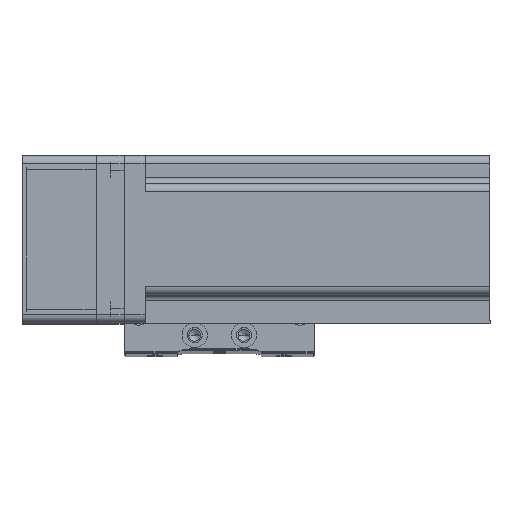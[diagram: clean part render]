
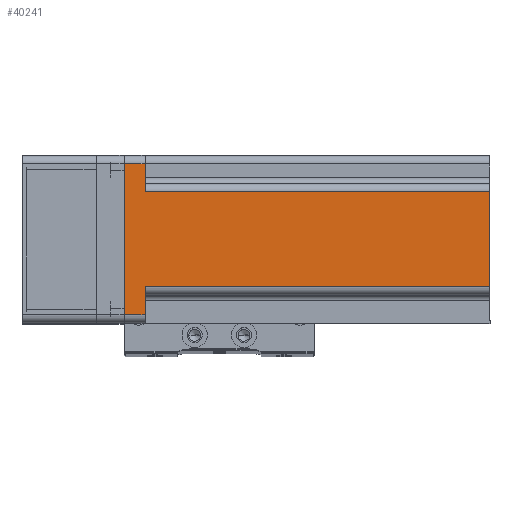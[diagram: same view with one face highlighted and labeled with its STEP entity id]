
A CAD part, top view. The second image highlights one B-rep face of the part: STEP entity #40241.
In plain terms, the highlighted planar face has unit normal (0, 0, 1) as drawn and (0, 1, 0) by its records, which use the part's own axes.
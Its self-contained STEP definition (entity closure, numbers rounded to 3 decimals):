
#1331 = CARTESIAN_POINT ( 'NONE',  ( 17., 30., 7.5 ) ) ;
#1866 = DIRECTION ( 'NONE',  ( -1., 0., 0. ) ) ;
#2267 = VECTOR ( 'NONE', #21201, 1000. ) ;
#2432 = VECTOR ( 'NONE', #33708, 1000. ) ;
#3003 = ORIENTED_EDGE ( 'NONE', *, *, #46802, .T. ) ;
#3740 = VECTOR ( 'NONE', #45900, 1000. ) ;
#3850 = DIRECTION ( 'NONE',  ( -1., 0., 0. ) ) ;
#5564 = CARTESIAN_POINT ( 'NONE',  ( 30., 30., 0. ) ) ;
#7509 = CARTESIAN_POINT ( 'NONE',  ( 30., 30., 130.7 ) ) ;
#8239 = EDGE_LOOP ( 'NONE', ( #20131, #46604, #32475, #18207, #41131, #35709, #3003, #41178 ) ) ;
#8507 = EDGE_CURVE ( 'NONE', #31222, #46485, #31830, .T. ) ;
#9532 = VECTOR ( 'NONE', #45970, 1000. ) ;
#10761 = LINE ( 'NONE', #5564, #39229 ) ;
#10911 = CARTESIAN_POINT ( 'NONE',  ( 17., 30., 130.7 ) ) ;
#11720 = EDGE_CURVE ( 'NONE', #25434, #35954, #39199, .T. ) ;
#12096 = VECTOR ( 'NONE', #14623, 1000. ) ;
#13052 = VERTEX_POINT ( 'NONE', #18591 ) ;
#14502 = CARTESIAN_POINT ( 'NONE',  ( 30., 30., 130.7 ) ) ;
#14623 = DIRECTION ( 'NONE',  ( 0., 0., -1. ) ) ;
#14625 = CARTESIAN_POINT ( 'NONE',  ( -27., 30., 130.7 ) ) ;
#15399 = VERTEX_POINT ( 'NONE', #18069 ) ;
#16735 = VECTOR ( 'NONE', #3850, 1000. ) ;
#17390 = CARTESIAN_POINT ( 'NONE',  ( 20., 30., 7.5 ) ) ;
#17690 = VERTEX_POINT ( 'NONE', #40934 ) ;
#17908 = LINE ( 'NONE', #7509, #16735 ) ;
#18069 = CARTESIAN_POINT ( 'NONE',  ( -27., 30., 0. ) ) ;
#18207 = ORIENTED_EDGE ( 'NONE', *, *, #36768, .T. ) ;
#18209 = DIRECTION ( 'NONE',  ( 1., 0., 0. ) ) ;
#18462 = CARTESIAN_POINT ( 'NONE',  ( -17., 30., 130.7 ) ) ;
#18591 = CARTESIAN_POINT ( 'NONE',  ( -27., 30., 7.5 ) ) ;
#18817 = EDGE_CURVE ( 'NONE', #17690, #35954, #17908, .T. ) ;
#19961 = CARTESIAN_POINT ( 'NONE',  ( -20., 30., 7.5 ) ) ;
#20131 = ORIENTED_EDGE ( 'NONE', *, *, #47383, .T. ) ;
#21201 = DIRECTION ( 'NONE',  ( -1., 0., 0. ) ) ;
#22662 = CARTESIAN_POINT ( 'NONE',  ( 27., 30., 0. ) ) ;
#23436 = LINE ( 'NONE', #19961, #3740 ) ;
#25434 = VERTEX_POINT ( 'NONE', #26649 ) ;
#26649 = CARTESIAN_POINT ( 'NONE',  ( -17., 30., 7.5 ) ) ;
#26722 = AXIS2_PLACEMENT_3D ( 'NONE', #14502, #40493, #18209 ) ;
#28470 = EDGE_CURVE ( 'NONE', #31222, #37995, #41885, .T. ) ;
#31063 = CARTESIAN_POINT ( 'NONE',  ( -17., 30., 130.7 ) ) ;
#31222 = VERTEX_POINT ( 'NONE', #47595 ) ;
#31830 = LINE ( 'NONE', #17390, #2267 ) ;
#31835 = LINE ( 'NONE', #10911, #12096 ) ;
#32475 = ORIENTED_EDGE ( 'NONE', *, *, #18817, .F. ) ;
#33708 = DIRECTION ( 'NONE',  ( 0., 0., -1. ) ) ;
#33743 = FACE_OUTER_BOUND ( 'NONE', #8239, .T. ) ;
#35709 = ORIENTED_EDGE ( 'NONE', *, *, #28470, .T. ) ;
#35954 = VERTEX_POINT ( 'NONE', #18462 ) ;
#36768 = EDGE_CURVE ( 'NONE', #17690, #46485, #31835, .T. ) ;
#36906 = DIRECTION ( 'NONE',  ( 0., 0., 1. ) ) ;
#37416 = CARTESIAN_POINT ( 'NONE',  ( 27., 30., 130.7 ) ) ;
#37995 = VERTEX_POINT ( 'NONE', #22662 ) ;
#38747 = LINE ( 'NONE', #14625, #47391 ) ;
#39199 = LINE ( 'NONE', #31063, #9532 ) ;
#39229 = VECTOR ( 'NONE', #1866, 1000. ) ;
#40241 = ADVANCED_FACE ( 'NONE', ( #33743 ), #47764, .F. ) ;
#40493 = DIRECTION ( 'NONE',  ( 0., -1., 0. ) ) ;
#40934 = CARTESIAN_POINT ( 'NONE',  ( 17., 30., 130.7 ) ) ;
#41131 = ORIENTED_EDGE ( 'NONE', *, *, #8507, .F. ) ;
#41178 = ORIENTED_EDGE ( 'NONE', *, *, #46601, .T. ) ;
#41885 = LINE ( 'NONE', #37416, #2432 ) ;
#45900 = DIRECTION ( 'NONE',  ( 1., 0., 0. ) ) ;
#45970 = DIRECTION ( 'NONE',  ( 0., 0., 1. ) ) ;
#46485 = VERTEX_POINT ( 'NONE', #1331 ) ;
#46601 = EDGE_CURVE ( 'NONE', #15399, #13052, #38747, .T. ) ;
#46604 = ORIENTED_EDGE ( 'NONE', *, *, #11720, .T. ) ;
#46802 = EDGE_CURVE ( 'NONE', #37995, #15399, #10761, .T. ) ;
#47383 = EDGE_CURVE ( 'NONE', #13052, #25434, #23436, .T. ) ;
#47391 = VECTOR ( 'NONE', #36906, 1000. ) ;
#47595 = CARTESIAN_POINT ( 'NONE',  ( 27., 30., 7.5 ) ) ;
#47764 = PLANE ( 'NONE',  #26722 ) ;
